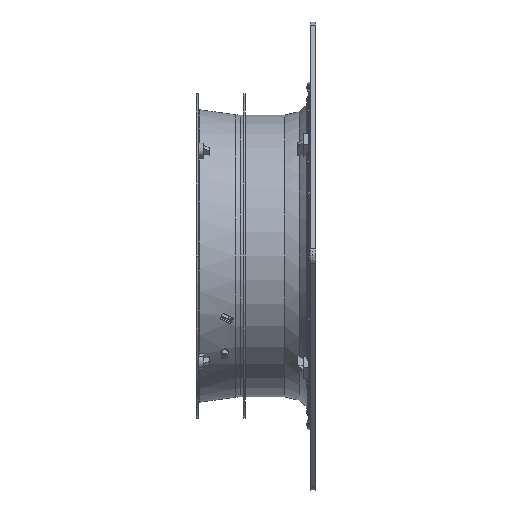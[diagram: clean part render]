
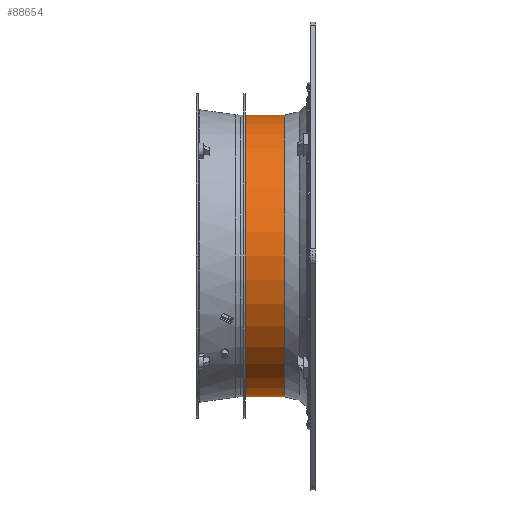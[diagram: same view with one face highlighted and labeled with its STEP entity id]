
A CAD part, front view. The second image highlights one B-rep face of the part: STEP entity #88654.
In plain terms, the highlighted cylindrical face has radius 405.5 mm (diameter 811 mm), a partial arc.
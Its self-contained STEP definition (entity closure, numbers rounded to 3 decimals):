
#10981=CARTESIAN_POINT('',(107.2,0.,0.));
#10982=DIRECTION('',(-1.,0.,0.));
#10983=DIRECTION('',(0.,0.,-1.));
#10984=AXIS2_PLACEMENT_3D('',#10981,#10982,#10983);
#10986=DIRECTION('',(1.,0.,0.));
#10987=VECTOR('',#10986,113.32);
#10988=CARTESIAN_POINT('',(107.2,0.,405.5));
#10989=LINE('',#10988,#10987);
#10990=DIRECTION('',(1.,0.,0.));
#10991=VECTOR('',#10990,113.32);
#10992=CARTESIAN_POINT('',(107.2,0.,-405.5));
#10993=LINE('',#10992,#10991);
#11010=CARTESIAN_POINT('',(220.52,0.,0.));
#11011=DIRECTION('',(1.,0.,0.));
#11012=DIRECTION('',(0.,0.,1.));
#11013=AXIS2_PLACEMENT_3D('',#11010,#11011,#11012);
#70843=CARTESIAN_POINT('',(107.2,0.,405.5));
#70844=VERTEX_POINT('',#70843);
#70845=CARTESIAN_POINT('',(107.2,0.,-405.5));
#70846=VERTEX_POINT('',#70845);
#71361=CARTESIAN_POINT('',(220.52,0.,405.5));
#71363=VERTEX_POINT('',#71361);
#71369=CARTESIAN_POINT('',(220.52,0.,-405.5));
#71371=VERTEX_POINT('',#71369);
#88642=CARTESIAN_POINT('',(310.4,0.,0.));
#88643=DIRECTION('',(-1.,0.,0.));
#88644=DIRECTION('',(0.,0.,-1.));
#88645=AXIS2_PLACEMENT_3D('',#88642,#88643,#88644);
#88646=CYLINDRICAL_SURFACE('',#88645,405.5);
#88647=ORIENTED_EDGE('',*,*,#88606,.T.);
#88648=ORIENTED_EDGE('',*,*,#88637,.T.);
#88650=ORIENTED_EDGE('',*,*,#88649,.T.);
#88651=ORIENTED_EDGE('',*,*,#88633,.F.);
#88652=EDGE_LOOP('',(#88647,#88648,#88650,#88651));
#88653=FACE_OUTER_BOUND('',#88652,.F.);
#88654=ADVANCED_FACE('',(#88653),#88646,.T.);
#10985=CIRCLE('',#10984,405.5);
#11014=CIRCLE('',#11013,405.5);
#88606=EDGE_CURVE('',#70846,#70844,#10985,.T.);
#88633=EDGE_CURVE('',#70846,#71371,#10993,.T.);
#88637=EDGE_CURVE('',#70844,#71363,#10989,.T.);
#88649=EDGE_CURVE('',#71363,#71371,#11014,.T.);
